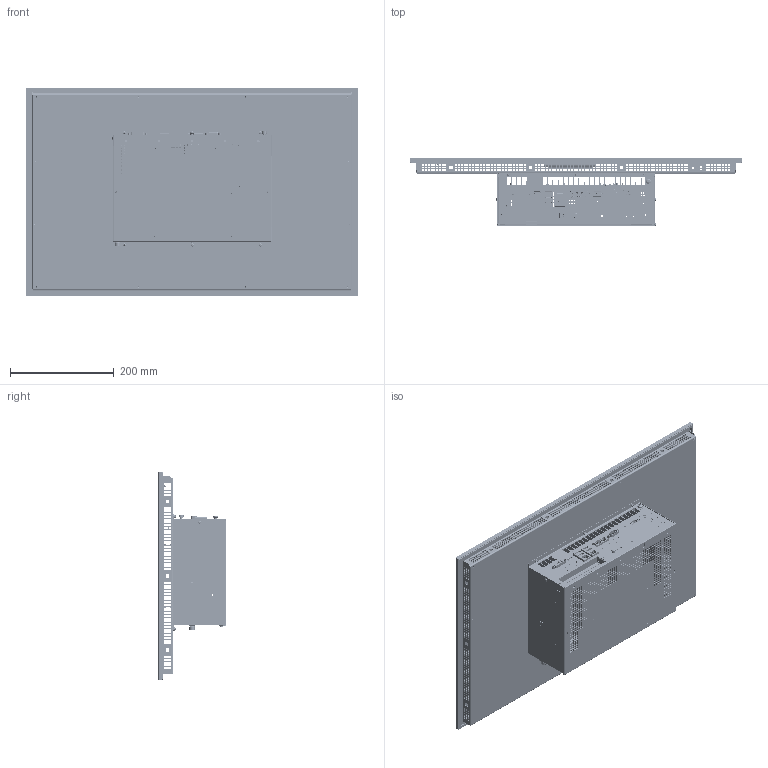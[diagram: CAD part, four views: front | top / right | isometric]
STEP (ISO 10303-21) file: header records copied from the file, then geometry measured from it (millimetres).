
FILE_DESCRIPTION (( 'STEP AP214' ), '1' );
FILE_NAME ('C6P34-Panel_240W_Cap_S1.STEP', '2019-09-20T10:13:28', ( '' ), ( '' ), 'SwSTEP 2.0', 'SolidWorks 2018', '' );
FILE_SCHEMA (( 'AUTOMOTIVE_DESIGN' ));
Length unit declared in the file: millimetre
Products named in the file (184): 69111028; 65720030; 62113042.prt; 66320015; 14300025; 21404036; 69111027; 21410056; 51524089; 55688006.prt; 21502089; 65720029; 21614000; 69112004; 48000072.prt; 62920009; 21410015; 57902482; 7359_056_Depopolato; 7397_227; 23330039; 57936013; 51702303_Default<A macchina>; piazzuola_de800_di370; 7397_227_Depopolato; 55202070; D02201703; 21410052; 57936014; 66320001; 21410046; 66320016; 7359_056; 52912002; 51702303; 56636642.prt; 65720078; 55455086^56600297(2)_TST-000853; 62920002; 57902481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
Assembly tree (135 placements, depth 6):
  69111028
  65720030
  62113042.prt
  66320015
  14300025
Bounding box: 639.5 x 129.8 x 402 mm (x, y, z)
Volume: 1840939.8 mm3; surface area: 2609940.7 mm2
Topology: 224 solids, 266 shells, 29166 faces, 82308 edges, 54000 vertices
Faces by surface type: plane 23059, cylinder 4620, bspline 723, cone 665, torus 79, sphere 20
Full cylindrical faces by diameter (mm): 0.3 x9, 0.434 x1, 0.6 x30, 0.65 x6, 0.7 x165, 0.8 x36, 0.85 x66, 0.9 x175, 0.95 x11, 1 x119, 1.1 x3, 1.2 x10, 1.32 x2, 1.35 x4, 1.4 x8, 1.5 x6, 1.6 x7, 1.7 x4, 1.8 x3, 1.9 x4, 1.95 x4, 2 x1, 2.05 x1, 2.3 x18, 2.4 x9, 2.5 x32, 2.6 x5, 2.8 x3, 2.874 x1, 3 x64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
Entity records: 869896 total; most frequent: CARTESIAN_POINT 179993, ORIENTED_EDGE 142664, DIRECTION 125899, EDGE_CURVE 71768, LINE 61691, VECTOR 61691, VERTEX_POINT 47815, EDGE_LOOP 33732
